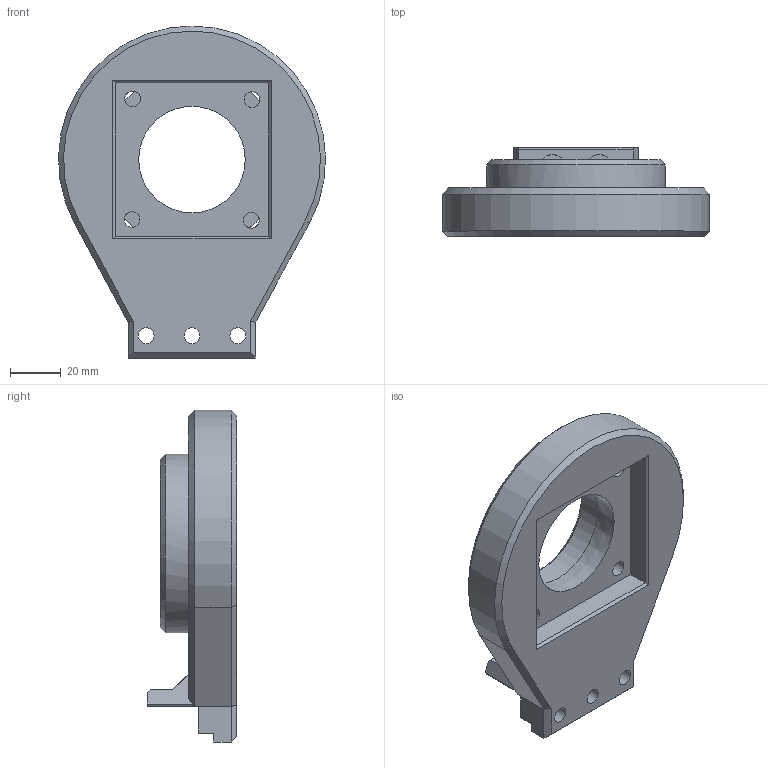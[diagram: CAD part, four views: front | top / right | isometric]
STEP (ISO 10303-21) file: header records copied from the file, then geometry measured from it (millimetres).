
FILE_DESCRIPTION(/* description */ (''),/* implementation_level */ '2;1');
FILE_NAME(/* name */ 'shoulder-motor-mount.step',/* time_stamp */ '2026-06-03T23:45:42+01:00',/* author */ (''),/* organization */ (''),/* preprocessor_version */ 'ST-DEVELOPER v20.1',/* originating_system */ 'Autodesk Translation Framework v15.8.0.0',/* authorisation */ '');
FILE_SCHEMA (('AUTOMOTIVE_DESIGN { 1 0 10303 214 3 1 1 }'));
Length unit declared in the file: millimetre
Products named in the file (1): shoulder-motor-mount
Bounding box: 104.98 x 35 x 130.5 mm (x, y, z)
Volume: 171398.9 mm3; surface area: 34167.3 mm2
Topology: 1 solids, 1 shells, 61 faces, 159 edges, 98 vertices
Faces by surface type: plane 42, cylinder 14, cone 5
Full cylindrical faces by diameter (mm): 5.2 x2, 6.2 x7, 10.4 x2, 43.625 x1, 70.3 x1
Entity records: 1928 total; most frequent: DIRECTION 337, CARTESIAN_POINT 319, ORIENTED_EDGE 318, EDGE_CURVE 159, AXIS2_PLACEMENT_3D 116, LINE 105, VECTOR 105, VERTEX_POINT 98
